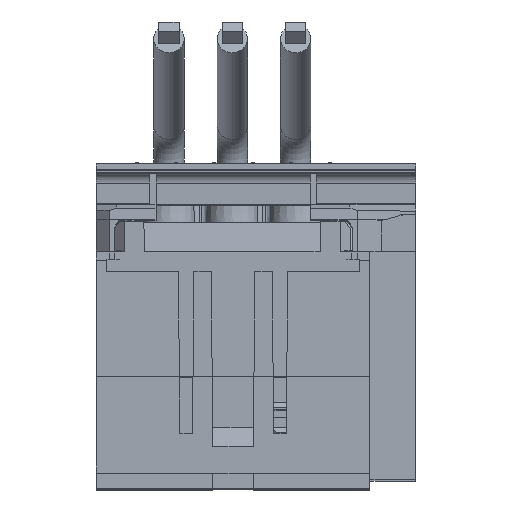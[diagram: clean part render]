
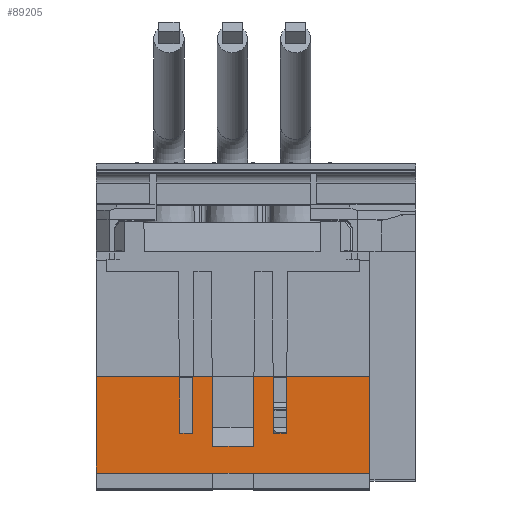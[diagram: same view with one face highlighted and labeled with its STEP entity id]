
A CAD part, top view. The second image highlights one B-rep face of the part: STEP entity #89205.
In plain terms, the highlighted planar face has unit normal (0, -0.009, 1).
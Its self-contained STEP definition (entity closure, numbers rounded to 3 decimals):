
#71 = CARTESIAN_POINT ( 'NONE',  ( -27., -23.5, 199.833 ) ) ;
#366 = CARTESIAN_POINT ( 'NONE',  ( 7.902, -4.5, 199.999 ) ) ;
#749 = DIRECTION ( 'NONE',  ( 0., -0.009, 1. ) ) ;
#1397 = EDGE_CURVE ( 'NONE', #18607, #62365, #14476, .T. ) ;
#3231 = VERTEX_POINT ( 'NONE', #8643 ) ;
#4331 = LINE ( 'NONE', #50549, #71157 ) ;
#4585 = VECTOR ( 'NONE', #75955, 1000. ) ;
#5207 = DIRECTION ( 'NONE',  ( 1., 0., 0. ) ) ;
#5568 = VERTEX_POINT ( 'NONE', #55274 ) ;
#7657 = DIRECTION ( 'NONE',  ( 1., 0., 0. ) ) ;
#7781 = FACE_OUTER_BOUND ( 'NONE', #39466, .T. ) ;
#7814 = ORIENTED_EDGE ( 'NONE', *, *, #63684, .F. ) ;
#8281 = EDGE_CURVE ( 'NONE', #88701, #62365, #48597, .T. ) ;
#8643 = CARTESIAN_POINT ( 'NONE',  ( 4.003, -18.18, 199.88 ) ) ;
#9578 = EDGE_CURVE ( 'NONE', #91497, #13133, #44038, .T. ) ;
#9723 = DIRECTION ( 'NONE',  ( -1., 0., 0. ) ) ;
#9876 = ORIENTED_EDGE ( 'NONE', *, *, #45456, .T. ) ;
#9902 = CARTESIAN_POINT ( 'NONE',  ( -7.902, -4.5, 199.999 ) ) ;
#10913 = VECTOR ( 'NONE', #36014, 1000. ) ;
#11048 = LINE ( 'NONE', #30894, #44459 ) ;
#11213 = ORIENTED_EDGE ( 'NONE', *, *, #34922, .T. ) ;
#13133 = VERTEX_POINT ( 'NONE', #31920 ) ;
#13155 = EDGE_CURVE ( 'NONE', #14837, #91497, #32816, .T. ) ;
#14407 = LINE ( 'NONE', #29936, #75698 ) ;
#14476 = LINE ( 'NONE', #89624, #87984 ) ;
#14777 = CARTESIAN_POINT ( 'NONE',  ( -26., 18.5, 200.2 ) ) ;
#14788 = ORIENTED_EDGE ( 'NONE', *, *, #68744, .T. ) ;
#14837 = VERTEX_POINT ( 'NONE', #43967 ) ;
#16888 = DIRECTION ( 'NONE',  ( 0., 1., 0.009 ) ) ;
#17439 = VECTOR ( 'NONE', #5207, 1000. ) ;
#17922 = CARTESIAN_POINT ( 'NONE',  ( 4., -23.5, 199.833 ) ) ;
#18253 = CARTESIAN_POINT ( 'NONE',  ( -26., -23.5, 199.833 ) ) ;
#18607 = VERTEX_POINT ( 'NONE', #34278 ) ;
#19083 = ORIENTED_EDGE ( 'NONE', *, *, #13155, .T. ) ;
#19701 = ORIENTED_EDGE ( 'NONE', *, *, #34764, .T. ) ;
#19906 = LINE ( 'NONE', #85642, #55549 ) ;
#20654 = VECTOR ( 'NONE', #24476, 1000. ) ;
#22173 = ORIENTED_EDGE ( 'NONE', *, *, #9578, .T. ) ;
#24476 = DIRECTION ( 'NONE',  ( 1., 0., 0. ) ) ;
#24544 = CARTESIAN_POINT ( 'NONE',  ( 10.5, -15.7, 199.902 ) ) ;
#24753 = CARTESIAN_POINT ( 'NONE',  ( -10.5, -15.7, 199.902 ) ) ;
#24756 = VECTOR ( 'NONE', #40332, 1000. ) ;
#25606 = ORIENTED_EDGE ( 'NONE', *, *, #40381, .T. ) ;
#25627 = CARTESIAN_POINT ( 'NONE',  ( 10.598, -4.5, 199.999 ) ) ;
#26184 = VERTEX_POINT ( 'NONE', #82105 ) ;
#26485 = VECTOR ( 'NONE', #16888, 1000. ) ;
#29936 = CARTESIAN_POINT ( 'NONE',  ( 4.303, 16.2, 200.18 ) ) ;
#30874 = DIRECTION ( 'NONE',  ( -0.009, -1., -0.009 ) ) ;
#30894 = CARTESIAN_POINT ( 'NONE',  ( -26., -15.7, 199.902 ) ) ;
#31920 = CARTESIAN_POINT ( 'NONE',  ( 27., -23.5, 199.833 ) ) ;
#32816 = LINE ( 'NONE', #48406, #46250 ) ;
#33503 = CARTESIAN_POINT ( 'NONE',  ( -4.122, -4.5, 199.999 ) ) ;
#34278 = CARTESIAN_POINT ( 'NONE',  ( -4.003, -18.18, 199.88 ) ) ;
#34764 = EDGE_CURVE ( 'NONE', #90360, #14837, #4331, .T. ) ;
#34922 = EDGE_CURVE ( 'NONE', #37122, #26184, #11048, .T. ) ;
#35123 = ORIENTED_EDGE ( 'NONE', *, *, #61806, .T. ) ;
#35308 = DIRECTION ( 'NONE',  ( 0., -1., -0.009 ) ) ;
#35512 = DIRECTION ( 'NONE',  ( -0.009, -1., -0.009 ) ) ;
#35546 = VECTOR ( 'NONE', #30874, 1000. ) ;
#35697 = CARTESIAN_POINT ( 'NONE',  ( -26., -4.5, 199.999 ) ) ;
#36014 = DIRECTION ( 'NONE',  ( 1., 0., 0. ) ) ;
#37122 = VERTEX_POINT ( 'NONE', #64545 ) ;
#38221 = VERTEX_POINT ( 'NONE', #24544 ) ;
#38445 = CARTESIAN_POINT ( 'NONE',  ( 27., -4.5, 199.999 ) ) ;
#39182 = ORIENTED_EDGE ( 'NONE', *, *, #80779, .T. ) ;
#39466 = EDGE_LOOP ( 'NONE', ( #70970, #35123, #19701, #19083, #22173, #60225, #48121, #58828, #39182, #9876, #7814, #25606, #14788, #44088, #81448, #89100, #11213, #72556 ) ) ;
#39566 = CARTESIAN_POINT ( 'NONE',  ( -27., 18.5, 200.2 ) ) ;
#40262 = VERTEX_POINT ( 'NONE', #366 ) ;
#40332 = DIRECTION ( 'NONE',  ( -1., 0., 0. ) ) ;
#40380 = EDGE_CURVE ( 'NONE', #88701, #37122, #53370, .T. ) ;
#40381 = EDGE_CURVE ( 'NONE', #5568, #3231, #14407, .T. ) ;
#42331 = VECTOR ( 'NONE', #7657, 1000. ) ;
#43967 = CARTESIAN_POINT ( 'NONE',  ( -4., -23.5, 199.833 ) ) ;
#43986 = VECTOR ( 'NONE', #46846, 1000. ) ;
#44038 = LINE ( 'NONE', #18253, #20654 ) ;
#44088 = ORIENTED_EDGE ( 'NONE', *, *, #1397, .T. ) ;
#44375 = EDGE_CURVE ( 'NONE', #26184, #78671, #81919, .T. ) ;
#44459 = VECTOR ( 'NONE', #9723, 1000. ) ;
#45456 = EDGE_CURVE ( 'NONE', #72049, #40262, #50976, .T. ) ;
#46250 = VECTOR ( 'NONE', #90709, 1000. ) ;
#46268 = EDGE_CURVE ( 'NONE', #77718, #78671, #52098, .T. ) ;
#46658 = CARTESIAN_POINT ( 'NONE',  ( -26., -4.5, 199.999 ) ) ;
#46846 = DIRECTION ( 'NONE',  ( -0.009, 1., 0.009 ) ) ;
#47720 = CARTESIAN_POINT ( 'NONE',  ( 8., -15.7, 199.902 ) ) ;
#48121 = ORIENTED_EDGE ( 'NONE', *, *, #65213, .F. ) ;
#48406 = CARTESIAN_POINT ( 'NONE',  ( -26., -23.5, 199.833 ) ) ;
#48597 = LINE ( 'NONE', #46658, #17439 ) ;
#48639 = VECTOR ( 'NONE', #61754, 1000. ) ;
#50353 = CARTESIAN_POINT ( 'NONE',  ( -26., -4.5, 199.999 ) ) ;
#50549 = CARTESIAN_POINT ( 'NONE',  ( 4., -23.5, 199.833 ) ) ;
#50976 = LINE ( 'NONE', #47720, #48639 ) ;
#51286 = LINE ( 'NONE', #50353, #42331 ) ;
#51770 = DIRECTION ( 'NONE',  ( -0.009, -1., -0.009 ) ) ;
#51785 = DIRECTION ( 'NONE',  ( 1., 0., 0. ) ) ;
#52098 = LINE ( 'NONE', #92061, #55372 ) ;
#52360 = CARTESIAN_POINT ( 'NONE',  ( 27., 18.5, 200.2 ) ) ;
#53370 = LINE ( 'NONE', #72922, #35546 ) ;
#55274 = CARTESIAN_POINT ( 'NONE',  ( 4.122, -4.5, 199.999 ) ) ;
#55372 = VECTOR ( 'NONE', #55379, 1000. ) ;
#55379 = DIRECTION ( 'NONE',  ( 1., 0., 0. ) ) ;
#55549 = VECTOR ( 'NONE', #35512, 1000. ) ;
#57404 = VERTEX_POINT ( 'NONE', #25627 ) ;
#57453 = PLANE ( 'NONE',  #87283 ) ;
#57743 = CARTESIAN_POINT ( 'NONE',  ( -10.598, -4.5, 199.999 ) ) ;
#58547 = EDGE_CURVE ( 'NONE', #13133, #85817, #64357, .T. ) ;
#58828 = ORIENTED_EDGE ( 'NONE', *, *, #84150, .T. ) ;
#60225 = ORIENTED_EDGE ( 'NONE', *, *, #58547, .T. ) ;
#60613 = CARTESIAN_POINT ( 'NONE',  ( -26., -18.18, 199.88 ) ) ;
#61754 = DIRECTION ( 'NONE',  ( -0.009, 1., 0.009 ) ) ;
#61806 = EDGE_CURVE ( 'NONE', #77718, #90360, #77374, .T. ) ;
#62365 = VERTEX_POINT ( 'NONE', #33503 ) ;
#63684 = EDGE_CURVE ( 'NONE', #5568, #40262, #51286, .T. ) ;
#64357 = LINE ( 'NONE', #52360, #26485 ) ;
#64545 = CARTESIAN_POINT ( 'NONE',  ( -8., -15.7, 199.902 ) ) ;
#65213 = EDGE_CURVE ( 'NONE', #57404, #85817, #77745, .T. ) ;
#68479 = DIRECTION ( 'NONE',  ( -0.009, 1., 0.009 ) ) ;
#68744 = EDGE_CURVE ( 'NONE', #3231, #18607, #81617, .T. ) ;
#70970 = ORIENTED_EDGE ( 'NONE', *, *, #46268, .F. ) ;
#71157 = VECTOR ( 'NONE', #51785, 1000. ) ;
#71752 = CARTESIAN_POINT ( 'NONE',  ( -27., -4.5, 199.999 ) ) ;
#72049 = VERTEX_POINT ( 'NONE', #79104 ) ;
#72556 = ORIENTED_EDGE ( 'NONE', *, *, #44375, .T. ) ;
#72922 = CARTESIAN_POINT ( 'NONE',  ( -7.722, 16.2, 200.18 ) ) ;
#75698 = VECTOR ( 'NONE', #51770, 1000. ) ;
#75955 = DIRECTION ( 'NONE',  ( -1., 0., 0. ) ) ;
#77374 = LINE ( 'NONE', #39566, #90711 ) ;
#77718 = VERTEX_POINT ( 'NONE', #71752 ) ;
#77745 = LINE ( 'NONE', #35697, #10913 ) ;
#78142 = LINE ( 'NONE', #89295, #4585 ) ;
#78671 = VERTEX_POINT ( 'NONE', #57743 ) ;
#79104 = CARTESIAN_POINT ( 'NONE',  ( 8., -15.7, 199.902 ) ) ;
#80779 = EDGE_CURVE ( 'NONE', #38221, #72049, #78142, .T. ) ;
#81448 = ORIENTED_EDGE ( 'NONE', *, *, #8281, .F. ) ;
#81617 = LINE ( 'NONE', #60613, #24756 ) ;
#81919 = LINE ( 'NONE', #24753, #43986 ) ;
#82105 = CARTESIAN_POINT ( 'NONE',  ( -10.5, -15.7, 199.902 ) ) ;
#84150 = EDGE_CURVE ( 'NONE', #57404, #38221, #19906, .T. ) ;
#85642 = CARTESIAN_POINT ( 'NONE',  ( 10.778, 16.2, 200.18 ) ) ;
#85817 = VERTEX_POINT ( 'NONE', #38445 ) ;
#87283 = AXIS2_PLACEMENT_3D ( 'NONE', #14777, #749, #35308 ) ;
#87984 = VECTOR ( 'NONE', #68479, 1000. ) ;
#88701 = VERTEX_POINT ( 'NONE', #9902 ) ;
#89100 = ORIENTED_EDGE ( 'NONE', *, *, #40380, .T. ) ;
#89205 = ADVANCED_FACE ( 'NONE', ( #7781 ), #57453, .T. ) ;
#89295 = CARTESIAN_POINT ( 'NONE',  ( -26., -15.7, 199.902 ) ) ;
#89624 = CARTESIAN_POINT ( 'NONE',  ( -4.003, -18.18, 199.88 ) ) ;
#89952 = DIRECTION ( 'NONE',  ( 0., -1., -0.009 ) ) ;
#90360 = VERTEX_POINT ( 'NONE', #71 ) ;
#90709 = DIRECTION ( 'NONE',  ( 1., 0., 0. ) ) ;
#90711 = VECTOR ( 'NONE', #89952, 1000. ) ;
#91497 = VERTEX_POINT ( 'NONE', #17922 ) ;
#92061 = CARTESIAN_POINT ( 'NONE',  ( -26., -4.5, 199.999 ) ) ;
